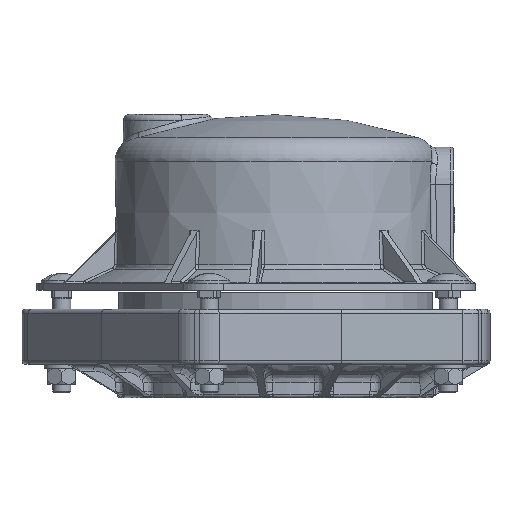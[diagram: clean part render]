
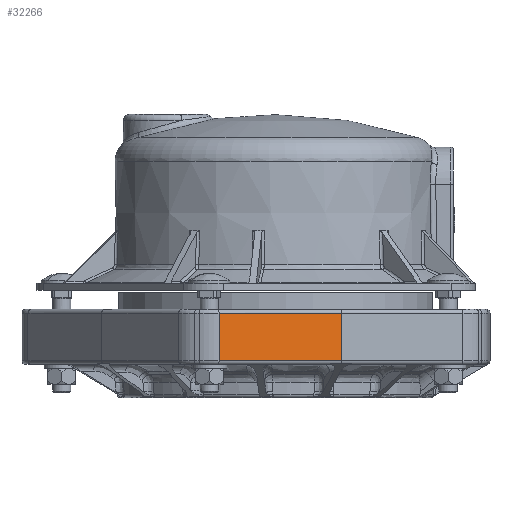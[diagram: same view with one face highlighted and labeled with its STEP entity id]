
A CAD part, left-side view. The second image highlights one B-rep face of the part: STEP entity #32266.
In plain terms, the highlighted planar face has unit normal (-0.956, -0.294, 0).
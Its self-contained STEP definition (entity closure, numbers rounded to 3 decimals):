
#18256=CARTESIAN_POINT('',(-173.92,-56.443,-59.98));
#18257=VERTEX_POINT('',#18256);
#18265=CARTESIAN_POINT('',(-206.019,47.983,-59.98));
#18266=VERTEX_POINT('',#18265);
#18267=CARTESIAN_POINT('',(-173.92,-56.443,-59.98));
#18268=DIRECTION('',(-0.294,0.956,0.));
#18269=VECTOR('',#18268,109.247);
#18270=LINE('',#18267,#18269);
#18271=EDGE_CURVE('',#18257,#18266,#18270,.T.);
#31551=CARTESIAN_POINT('',(-173.92,-56.443,-19.38));
#31552=VERTEX_POINT('',#31551);
#31616=CARTESIAN_POINT('',(-206.019,47.983,-19.38));
#31617=VERTEX_POINT('',#31616);
#31691=CARTESIAN_POINT('',(-206.019,47.983,-19.38));
#31692=DIRECTION('',(0.294,-0.956,0.));
#31693=VECTOR('',#31692,109.247);
#31694=LINE('',#31691,#31693);
#31695=EDGE_CURVE('',#31617,#31552,#31694,.T.);
#32241=CARTESIAN_POINT('',(-173.92,-56.443,-19.38));
#32242=DIRECTION('',(0.0,0.0,-1.0));
#32243=VECTOR('',#32242,40.6);
#32244=LINE('',#32241,#32243);
#32245=EDGE_CURVE('',#31552,#18257,#32244,.T.);
#32250=CARTESIAN_POINT('',(-206.019,47.983,-15.98));
#32251=DIRECTION('',(-0.956,-0.294,0.));
#32252=DIRECTION('',(0.0,0.0,1.0));
#32253=AXIS2_PLACEMENT_3D('',#32250,#32251,#32252);
#32254=PLANE('',#32253);
#32255=ORIENTED_EDGE('',*,*,#18271,.F.);
#32256=ORIENTED_EDGE('',*,*,#32245,.F.);
#32257=ORIENTED_EDGE('',*,*,#31695,.F.);
#32258=CARTESIAN_POINT('',(-206.019,47.983,-19.38));
#32259=DIRECTION('',(0.0,0.0,-1.0));
#32260=VECTOR('',#32259,40.6);
#32261=LINE('',#32258,#32260);
#32262=EDGE_CURVE('',#31617,#18266,#32261,.T.);
#32263=ORIENTED_EDGE('',*,*,#32262,.T.);
#32264=EDGE_LOOP('',(#32255,#32256,#32257,#32263));
#32265=FACE_OUTER_BOUND('',#32264,.T.);
#32266=ADVANCED_FACE('',(#32265),#32254,.T.);
